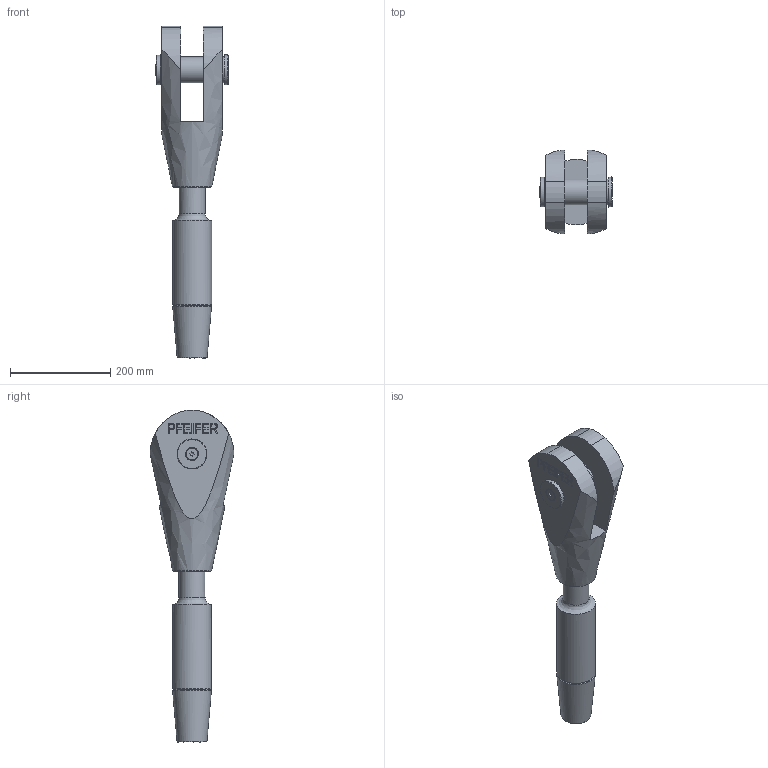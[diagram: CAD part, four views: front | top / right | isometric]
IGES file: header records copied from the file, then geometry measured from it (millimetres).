
Global section: file name: 520-052-GAK-ADA; native system: Autodesk Inventor 2016; preprocessor: unknown; author: Administrator; date: 20200703.131053; units: centimetre
Bounding box: 144.44 x 167.69 x 663.98 mm (x, y, z)
Volume: 4287991.7 mm3; surface area: 316317.8 mm2
Topology: 2 solids, 4 shells, 192 faces, 506 edges, 339 vertices
Faces by surface type: bspline 192
